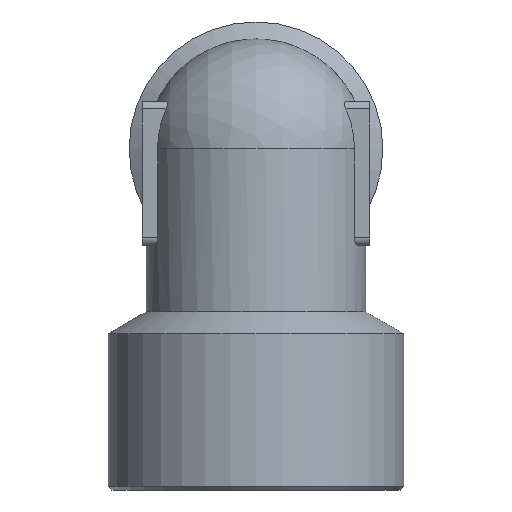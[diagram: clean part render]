
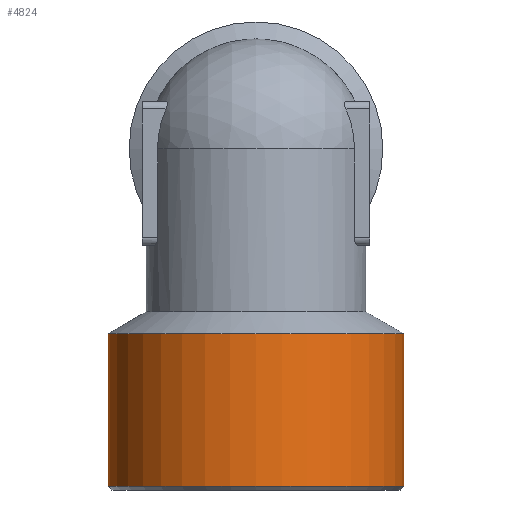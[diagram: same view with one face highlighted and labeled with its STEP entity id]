
A CAD part, left-side view. The second image highlights one B-rep face of the part: STEP entity #4824.
In plain terms, the highlighted cylindrical face has radius 19.5 mm (diameter 39 mm), a full revolution.
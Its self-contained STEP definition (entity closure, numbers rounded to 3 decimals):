
#1466=ORIENTED_EDGE('',*,*,#1818,.T.);
#1467=ORIENTED_EDGE('',*,*,#1817,.F.);
#1666=CIRCLE('',#4719,19.5);
#1667=CIRCLE('',#4721,19.5);
#1727=VERTEX_POINT('',#3421);
#1728=VERTEX_POINT('',#3424);
#1817=EDGE_CURVE('',#1727,#1727,#1666,.T.);
#1818=EDGE_CURVE('',#1728,#1728,#1667,.T.);
#1926=EDGE_LOOP('',(#1466));
#1927=EDGE_LOOP('',(#1467));
#1999=FACE_BOUND('',#1926,.T.);
#2000=FACE_BOUND('',#1927,.T.);
#2133=DIRECTION('',(0.,-1.,0.));
#2134=DIRECTION('',(-19.5,0.,0.));
#2135=DIRECTION('',(0.,-1.,0.));
#2136=DIRECTION('',(-1.,0.,0.));
#2137=DIRECTION('',(0.,-1.,0.));
#2138=DIRECTION('',(0.,0.,-19.5));
#3421=CARTESIAN_POINT('',(7.337,11.142,0.));
#3422=CARTESIAN_POINT('',(26.837,11.142,0.));
#3423=CARTESIAN_POINT('',(26.837,31.255,0.));
#3424=CARTESIAN_POINT('',(26.837,31.255,-19.5));
#3425=CARTESIAN_POINT('',(26.837,31.255,0.));
#4719=AXIS2_PLACEMENT_3D('',#3422,#2133,#2134);
#4720=AXIS2_PLACEMENT_3D('',#3423,#2135,#2136);
#4721=AXIS2_PLACEMENT_3D('',#3425,#2137,#2138);
#4791=CYLINDRICAL_SURFACE('',#4720,19.5);
#4824=ADVANCED_FACE('',(#1999,#2000),#4791,.T.);
